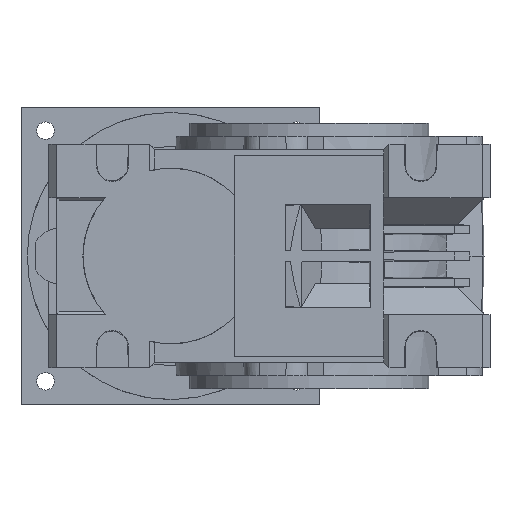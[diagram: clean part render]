
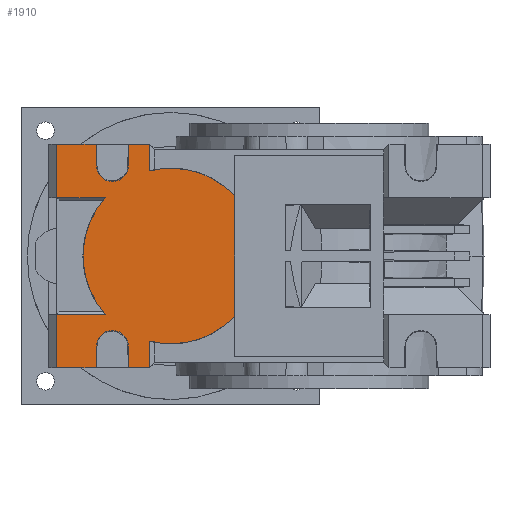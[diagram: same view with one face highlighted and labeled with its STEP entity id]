
A CAD part, left-side view. The second image highlights one B-rep face of the part: STEP entity #1910.
In plain terms, the highlighted planar face has unit normal (-1, 0, 0).
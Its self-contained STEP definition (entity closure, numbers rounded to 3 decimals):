
#1910 = ADVANCED_FACE( 'NONE', ( #3921 ), #3922, .F. );
#3921 = FACE_OUTER_BOUND( '', #5967, .T. );
#3922 = PLANE( '', #5968 );
#5967 = EDGE_LOOP( '', ( #11878, #11879, #11880, #11881, #11882, #11883, #11884, #11885, #11886, #11887, #11888, #11889, #11890, #11891, #11892, #11893, #11894, #11895, #11896, #11897 ) );
#5968 = AXIS2_PLACEMENT_3D( '', #11898, #11899, #11900 );
#11878 = ORIENTED_EDGE( '', *, *, #14066, .T. );
#11879 = ORIENTED_EDGE( '', *, *, #14655, .T. );
#11880 = ORIENTED_EDGE( '', *, *, #14357, .T. );
#11881 = ORIENTED_EDGE( '', *, *, #14619, .F. );
#11882 = ORIENTED_EDGE( '', *, *, #12342, .F. );
#11883 = ORIENTED_EDGE( '', *, *, #14403, .T. );
#11884 = ORIENTED_EDGE( '', *, *, #14056, .T. );
#11885 = ORIENTED_EDGE( '', *, *, #13572, .F. );
#11886 = ORIENTED_EDGE( '', *, *, #14301, .F. );
#11887 = ORIENTED_EDGE( '', *, *, #12857, .T. );
#11888 = ORIENTED_EDGE( '', *, *, #12591, .F. );
#11889 = ORIENTED_EDGE( '', *, *, #14626, .F. );
#11890 = ORIENTED_EDGE( '', *, *, #14354, .T. );
#11891 = ORIENTED_EDGE( '', *, *, #14337, .F. );
#11892 = ORIENTED_EDGE( '', *, *, #14187, .F. );
#11893 = ORIENTED_EDGE( '', *, *, #13676, .T. );
#11894 = ORIENTED_EDGE( '', *, *, #14177, .T. );
#11895 = ORIENTED_EDGE( '', *, *, #14604, .T. );
#11896 = ORIENTED_EDGE( '', *, *, #14279, .T. );
#11897 = ORIENTED_EDGE( '', *, *, #13997, .F. );
#11898 = CARTESIAN_POINT( '', ( -126.453, -14.366, 20.498 ) );
#11899 = DIRECTION( '', ( 1., 0., 0. ) );
#11900 = DIRECTION( '', ( 0., 1., 0. ) );
#12342 = EDGE_CURVE( 'NONE', #14834, #14836, #14837, .T. );
#12591 = EDGE_CURVE( 'NONE', #15291, #15292, #15293, .T. );
#12857 = EDGE_CURVE( 'NONE', #15744, #15292, #15745, .T. );
#13572 = EDGE_CURVE( 'NONE', #16873, #16875, #16876, .T. );
#13676 = EDGE_CURVE( 'NONE', #17026, #17023, #17027, .T. );
#13997 = EDGE_CURVE( 'NONE', #17482, #17484, #17485, .T. );
#14056 = EDGE_CURVE( 'NONE', #17558, #16875, #17561, .T. );
#14066 = EDGE_CURVE( 'NONE', #17482, #17572, #17574, .T. );
#14177 = EDGE_CURVE( 'NONE', #17023, #17719, #17721, .T. );
#14187 = EDGE_CURVE( 'NONE', #17026, #17733, #17734, .T. );
#14279 = EDGE_CURVE( 'NONE', #17844, #17484, #17845, .T. );
#14301 = EDGE_CURVE( 'NONE', #15744, #16873, #17871, .T. );
#14337 = EDGE_CURVE( 'NONE', #17733, #17915, #17916, .T. );
#14354 = EDGE_CURVE( 'NONE', #15311, #17915, #17936, .T. );
#14357 = EDGE_CURVE( 'NONE', #17939, #17940, #17941, .T. );
#14403 = EDGE_CURVE( 'NONE', #14834, #17558, #17993, .T. );
#14604 = EDGE_CURVE( 'NONE', #17719, #17844, #18212, .T. );
#14619 = EDGE_CURVE( 'NONE', #14836, #17940, #18228, .T. );
#14626 = EDGE_CURVE( 'NONE', #15311, #15291, #18236, .T. );
#14655 = EDGE_CURVE( 'NONE', #17572, #17939, #18266, .T. );
#14834 = VERTEX_POINT( 'NONE', #18527 );
#14836 = VERTEX_POINT( 'NONE', #18530 );
#14837 = CIRCLE( '', #18531, 3. );
#15291 = VERTEX_POINT( 'NONE', #19303 );
#15292 = VERTEX_POINT( 'NONE', #19304 );
#15293 = CIRCLE( '', #19305, 16.5 );
#15311 = VERTEX_POINT( 'NONE', #19339 );
#15744 = VERTEX_POINT( 'NONE', #20059 );
#15745 = LINE( '', #20060, #20061 );
#16873 = VERTEX_POINT( 'NONE', #21963 );
#16875 = VERTEX_POINT( 'NONE', #21975 );
#16876 = LINE( '', #21976, #21977 );
#17023 = VERTEX_POINT( 'NONE', #22242 );
#17026 = VERTEX_POINT( 'NONE', #22246 );
#17027 = LINE( '', #22247, #22248 );
#17482 = VERTEX_POINT( 'NONE', #23071 );
#17484 = VERTEX_POINT( 'NONE', #23074 );
#17485 = CIRCLE( '', #23075, 16.5 );
#17558 = VERTEX_POINT( 'NONE', #23192 );
#17561 = LINE( '', #23197, #23198 );
#17572 = VERTEX_POINT( 'NONE', #23213 );
#17574 = LINE( '', #23216, #23217 );
#17719 = VERTEX_POINT( 'NONE', #23472 );
#17721 = LINE( '', #23475, #23476 );
#17733 = VERTEX_POINT( 'NONE', #23511 );
#17734 = CIRCLE( '', #23512, 3. );
#17844 = VERTEX_POINT( 'NONE', #23695 );
#17845 = LINE( '', #23696, #23697 );
#17871 = CIRCLE( '', #23757, 16.5 );
#17915 = VERTEX_POINT( 'NONE', #23849 );
#17916 = LINE( '', #23850, #23851 );
#17936 = LINE( '', #23880, #23881 );
#17939 = VERTEX_POINT( 'NONE', #23884 );
#17940 = VERTEX_POINT( 'NONE', #23885 );
#17941 = LINE( '', #23886, #23887 );
#17993 = LINE( '', #23975, #23976 );
#18212 = LINE( '', #24328, #24329 );
#18228 = LINE( '', #24353, #24354 );
#18236 = LINE( '', #24364, #24365 );
#18266 = LINE( '', #24409, #24410 );
#18527 = CARTESIAN_POINT( '', ( -126.453, 19.635, -2.464 ) );
#18530 = CARTESIAN_POINT( '', ( -126.453, 25.634, -2.464 ) );
#18531 = AXIS2_PLACEMENT_3D( '', #24557, #24558, #24559 );
#19303 = CARTESIAN_POINT( '', ( -126.453, 15.634, 30.505 ) );
#19304 = CARTESIAN_POINT( '', ( -126.453, -0.32, 25.87 ) );
#19305 = AXIS2_PLACEMENT_3D( '', #24789, #24790, #24791 );
#19339 = CARTESIAN_POINT( '', ( -126.453, 15.634, 35.498 ) );
#20059 = CARTESIAN_POINT( '', ( -126.453, -0.32, 3.125 ) );
#20060 = CARTESIAN_POINT( '', ( -126.453, -0.32, 20.498 ) );
#20061 = VECTOR( '', #25079, 1000. );
#21963 = CARTESIAN_POINT( '', ( -126.453, 15.634, -1.51 ) );
#21975 = CARTESIAN_POINT( '', ( -126.453, 15.634, -6.502 ) );
#21976 = CARTESIAN_POINT( '', ( -126.453, 15.634, 35.498 ) );
#21977 = VECTOR( '', #25866, 1000. );
#22242 = CARTESIAN_POINT( '', ( -126.453, 25.686, 35.498 ) );
#22246 = CARTESIAN_POINT( '', ( -126.453, 25.634, 31.459 ) );
#22247 = CARTESIAN_POINT( '', ( -126.453, 25.488, 19.99 ) );
#22248 = VECTOR( '', #25954, 1000. );
#23071 = CARTESIAN_POINT( '', ( -126.453, 23.933, 3.498 ) );
#23074 = CARTESIAN_POINT( '', ( -126.453, 23.933, 25.498 ) );
#23075 = AXIS2_PLACEMENT_3D( '', #26261, #26262, #26263 );
#23192 = CARTESIAN_POINT( '', ( -126.453, 19.583, -6.502 ) );
#23197 = CARTESIAN_POINT( '', ( -126.453, -14.366, -6.502 ) );
#23198 = VECTOR( '', #26315, 1000. );
#23213 = CARTESIAN_POINT( '', ( -126.453, 33.134, 3.498 ) );
#23216 = CARTESIAN_POINT( '', ( -126.453, -48.366, 3.498 ) );
#23217 = VECTOR( '', #26324, 1000. );
#23472 = CARTESIAN_POINT( '', ( -126.453, 33.134, 35.498 ) );
#23475 = CARTESIAN_POINT( '', ( -126.453, -14.366, 35.498 ) );
#23476 = VECTOR( '', #26413, 1000. );
#23511 = CARTESIAN_POINT( '', ( -126.453, 19.635, 31.459 ) );
#23512 = AXIS2_PLACEMENT_3D( '', #26420, #26421, #26422 );
#23695 = CARTESIAN_POINT( '', ( -126.453, 33.134, 25.498 ) );
#23696 = CARTESIAN_POINT( '', ( -126.453, -48.366, 25.498 ) );
#23697 = VECTOR( '', #26505, 1000. );
#23757 = AXIS2_PLACEMENT_3D( '', #26523, #26524, #26525 );
#23849 = CARTESIAN_POINT( '', ( -126.453, 19.583, 35.498 ) );
#23850 = CARTESIAN_POINT( '', ( -126.453, 19.635, 31.459 ) );
#23851 = VECTOR( '', #26553, 1000. );
#23880 = CARTESIAN_POINT( '', ( -126.453, -14.366, 35.498 ) );
#23881 = VECTOR( '', #26569, 1000. );
#23884 = CARTESIAN_POINT( '', ( -126.453, 33.134, -6.502 ) );
#23885 = CARTESIAN_POINT( '', ( -126.453, 25.686, -6.502 ) );
#23886 = CARTESIAN_POINT( '', ( -126.453, -14.366, -6.502 ) );
#23887 = VECTOR( '', #26570, 1000. );
#23975 = CARTESIAN_POINT( '', ( -126.453, 19.922, 20.061 ) );
#23976 = VECTOR( '', #26603, 1000. );
#24328 = CARTESIAN_POINT( '', ( -126.453, 33.134, 20.498 ) );
#24329 = VECTOR( '', #26736, 1000. );
#24353 = CARTESIAN_POINT( '', ( -126.453, 25.734, -10.334 ) );
#24354 = VECTOR( '', #26745, 1000. );
#24364 = CARTESIAN_POINT( '', ( -126.453, 15.634, 35.498 ) );
#24365 = VECTOR( '', #26748, 1000. );
#24409 = CARTESIAN_POINT( '', ( -126.453, 33.134, 20.498 ) );
#24410 = VECTOR( '', #26769, 1000. );
#24557 = CARTESIAN_POINT( '', ( -126.453, 22.634, -2.502 ) );
#24558 = DIRECTION( '', ( -1., 0., 0. ) );
#24559 = DIRECTION( '', ( 0., 0., 1. ) );
#24789 = CARTESIAN_POINT( '', ( -126.453, 11.634, 14.498 ) );
#24790 = DIRECTION( '', ( 1., 0., 0. ) );
#24791 = DIRECTION( '', ( 0., 0., -1. ) );
#25079 = DIRECTION( '', ( 0., 0., 1. ) );
#25866 = DIRECTION( '', ( 0., 0., -1. ) );
#25954 = DIRECTION( '', ( 0., 0.013, 1. ) );
#26261 = CARTESIAN_POINT( '', ( -126.453, 11.634, 14.498 ) );
#26262 = DIRECTION( '', ( 1., 0., 0. ) );
#26263 = DIRECTION( '', ( 0., 0., -1. ) );
#26315 = DIRECTION( '', ( 0., -1., 0. ) );
#26324 = DIRECTION( '', ( 0., 1., 0. ) );
#26413 = DIRECTION( '', ( 0., 1., 0. ) );
#26420 = CARTESIAN_POINT( '', ( -126.453, 22.634, 31.498 ) );
#26421 = DIRECTION( '', ( -1., 0., 0. ) );
#26422 = DIRECTION( '', ( 0., 0., -1. ) );
#26505 = DIRECTION( '', ( 0., -1., 0. ) );
#26523 = CARTESIAN_POINT( '', ( -126.453, 11.634, 14.498 ) );
#26524 = DIRECTION( '', ( 1., 0., 0. ) );
#26525 = DIRECTION( '', ( 0., 0., -1. ) );
#26553 = DIRECTION( '', ( 0., -0.013, 1. ) );
#26569 = DIRECTION( '', ( 0., 1., 0. ) );
#26570 = DIRECTION( '', ( 0., -1., 0. ) );
#26603 = DIRECTION( '', ( 0., -0.013, -1. ) );
#26736 = DIRECTION( '', ( 0., 0., -1. ) );
#26745 = DIRECTION( '', ( 0., 0.013, -1. ) );
#26748 = DIRECTION( '', ( 0., 0., -1. ) );
#26769 = DIRECTION( '', ( 0., 0., -1. ) );
